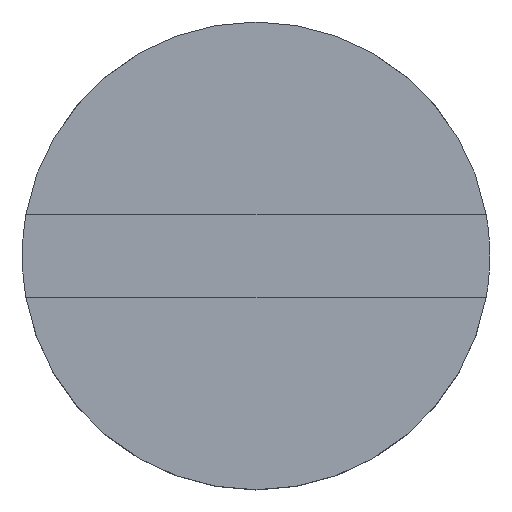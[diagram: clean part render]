
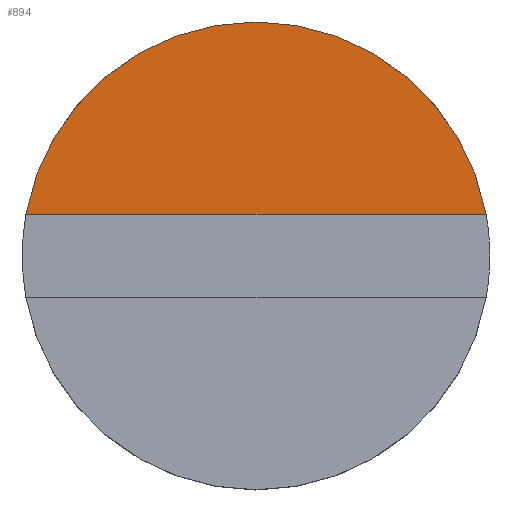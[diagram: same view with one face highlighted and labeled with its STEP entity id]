
A CAD part, top view. The second image highlights one B-rep face of the part: STEP entity #894.
In plain terms, the highlighted planar face has unit normal (0, 0, 1).
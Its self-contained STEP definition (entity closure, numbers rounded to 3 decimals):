
#31 = CYLINDRICAL_SURFACE('',#32,4.5);
#32 = AXIS2_PLACEMENT_3D('',#33,#34,#35);
#33 = CARTESIAN_POINT('',(9.,9.,33.5));
#34 = DIRECTION('',(-0.,-0.,-1.));
#35 = DIRECTION('',(1.,0.,0.));
#112 = VERTEX_POINT('',#113);
#113 = CARTESIAN_POINT('',(13.428,9.8,36.));
#127 = PLANE('',#128);
#128 = AXIS2_PLACEMENT_3D('',#129,#130,#131);
#129 = CARTESIAN_POINT('',(4.,9.8,34.7));
#130 = DIRECTION('',(0.,1.,0.));
#131 = DIRECTION('',(0.,0.,1.));
#139 = EDGE_CURVE('',#112,#140,#142,.T.);
#140 = VERTEX_POINT('',#141);
#141 = CARTESIAN_POINT('',(4.572,9.8,36.));
#142 = SURFACE_CURVE('',#143,(#148,#155),.PCURVE_S1.);
#143 = CIRCLE('',#144,4.5);
#144 = AXIS2_PLACEMENT_3D('',#145,#146,#147);
#145 = CARTESIAN_POINT('',(9.,9.,36.));
#146 = DIRECTION('',(0.,0.,1.));
#147 = DIRECTION('',(1.,0.,0.));
#148 = PCURVE('',#31,#149);
#149 = DEFINITIONAL_REPRESENTATION('',(#150),#154);
#150 = LINE('',#151,#152);
#151 = CARTESIAN_POINT('',(-0.,-2.5));
#152 = VECTOR('',#153,1.);
#153 = DIRECTION('',(-1.,0.));
#154 = ( GEOMETRIC_REPRESENTATION_CONTEXT(2) 
PARAMETRIC_REPRESENTATION_CONTEXT() REPRESENTATION_CONTEXT('2D SPACE',''
  ) );
#155 = PCURVE('',#156,#161);
#156 = PLANE('',#157);
#157 = AXIS2_PLACEMENT_3D('',#158,#159,#160);
#158 = CARTESIAN_POINT('',(9.,9.,36.));
#159 = DIRECTION('',(0.,0.,1.));
#160 = DIRECTION('',(1.,0.,-0.));
#161 = DEFINITIONAL_REPRESENTATION('',(#162),#166);
#162 = CIRCLE('',#163,4.5);
#163 = AXIS2_PLACEMENT_2D('',#164,#165);
#164 = CARTESIAN_POINT('',(0.,0.));
#165 = DIRECTION('',(1.,0.));
#166 = ( GEOMETRIC_REPRESENTATION_CONTEXT(2) 
PARAMETRIC_REPRESENTATION_CONTEXT() REPRESENTATION_CONTEXT('2D SPACE',''
  ) );
#873 = EDGE_CURVE('',#112,#140,#874,.T.);
#874 = SURFACE_CURVE('',#875,(#879,#886),.PCURVE_S1.);
#875 = LINE('',#876,#877);
#876 = CARTESIAN_POINT('',(6.5,9.8,36.));
#877 = VECTOR('',#878,1.);
#878 = DIRECTION('',(-1.,0.,0.));
#879 = PCURVE('',#127,#880);
#880 = DEFINITIONAL_REPRESENTATION('',(#881),#885);
#881 = LINE('',#882,#883);
#882 = CARTESIAN_POINT('',(1.3,2.5));
#883 = VECTOR('',#884,1.);
#884 = DIRECTION('',(0.,-1.));
#885 = ( GEOMETRIC_REPRESENTATION_CONTEXT(2) 
PARAMETRIC_REPRESENTATION_CONTEXT() REPRESENTATION_CONTEXT('2D SPACE',''
  ) );
#886 = PCURVE('',#156,#887);
#887 = DEFINITIONAL_REPRESENTATION('',(#888),#892);
#888 = LINE('',#889,#890);
#889 = CARTESIAN_POINT('',(-2.5,0.8));
#890 = VECTOR('',#891,1.);
#891 = DIRECTION('',(-1.,0.));
#892 = ( GEOMETRIC_REPRESENTATION_CONTEXT(2) 
PARAMETRIC_REPRESENTATION_CONTEXT() REPRESENTATION_CONTEXT('2D SPACE',''
  ) );
#894 = ADVANCED_FACE('',(#895),#156,.T.);
#895 = FACE_BOUND('',#896,.T.);
#896 = EDGE_LOOP('',(#897,#898));
#897 = ORIENTED_EDGE('',*,*,#873,.F.);
#898 = ORIENTED_EDGE('',*,*,#139,.T.);
